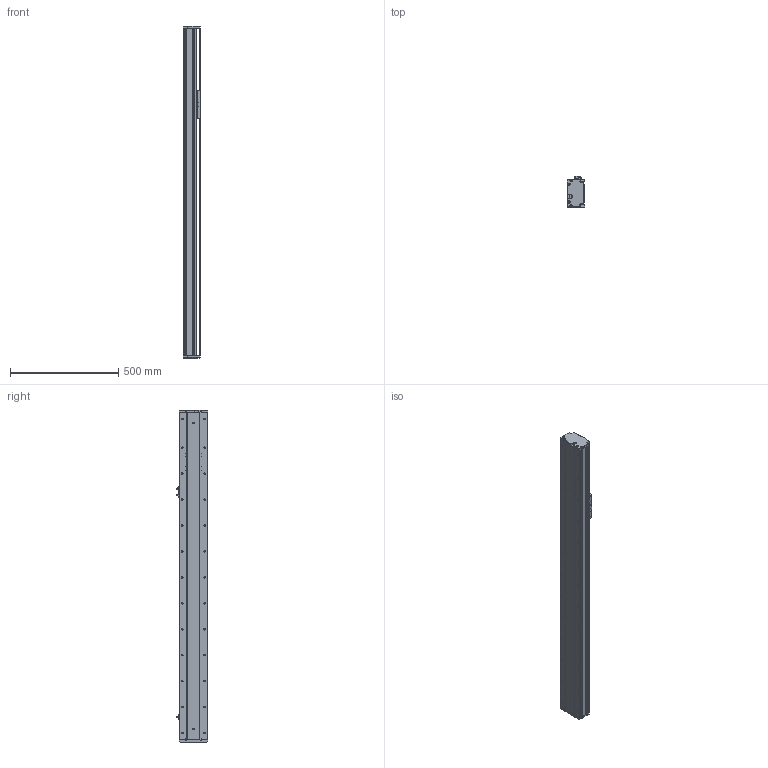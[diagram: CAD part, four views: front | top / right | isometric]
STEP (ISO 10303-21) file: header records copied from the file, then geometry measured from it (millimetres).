
FILE_DESCRIPTION (( 'STEP AP214' ), '1' );
FILE_NAME ('KSD130S-P2010-S1050-M-CM.STEP', '2019-09-10T07:09:05', ( '微软用户' ), ( '微软中国' ), 'SwSTEP 2.0', 'SolidWorks 2014', '' );
FILE_SCHEMA (( 'AUTOMOTIVE_DESIGN' ));
Length unit declared in the file: millimetre
Products named in the file (8): KSD130S-P2010-S1050-M-CM; 130宽马达安装板半封闭-内装; U倰嫖萇EEㄜSX672; 覜茼え100遵圉猾敕; 130宽盖板半封闭丝杠内装-1050行程; 130宽滚珠丝杆安装板半封闭-内装-20丝杆; 130宽端盖半封闭-内装; 130宽底板半封闭丝杠内装-1050行程
Assembly tree (9 placements, depth 2):
  KSD130S-P2010-S1050-M-CM
    130宽底板半封闭丝杠内装-1050行程
    130宽端盖半封闭-内装
    130宽滚珠丝杆安装板半封闭-内装-20丝杆
    130宽盖板半封闭丝杠内装-1050行程
    覜茼え100遵圉猾敕
    U倰嫖萇EEㄜSX672  x3
    130宽马达安装板半封闭-内装
Bounding box: 80 x 143.7 x 1535 mm (x, y, z)
Volume: 4496562.2 mm3; surface area: 1382429.5 mm2
Topology: 9 solids, 9 shells, 1195 faces, 3524 edges, 2228 vertices
Faces by surface type: cylinder 554, plane 463, cone 178
Entity records: 39962 total; most frequent: CARTESIAN_POINT 7949, DIRECTION 5774, ORIENTED_EDGE 5688, EDGE_CURVE 2844, AXIS2_PLACEMENT_3D 2117, VERTEX_POINT 1852, LINE 1540, VECTOR 1540
